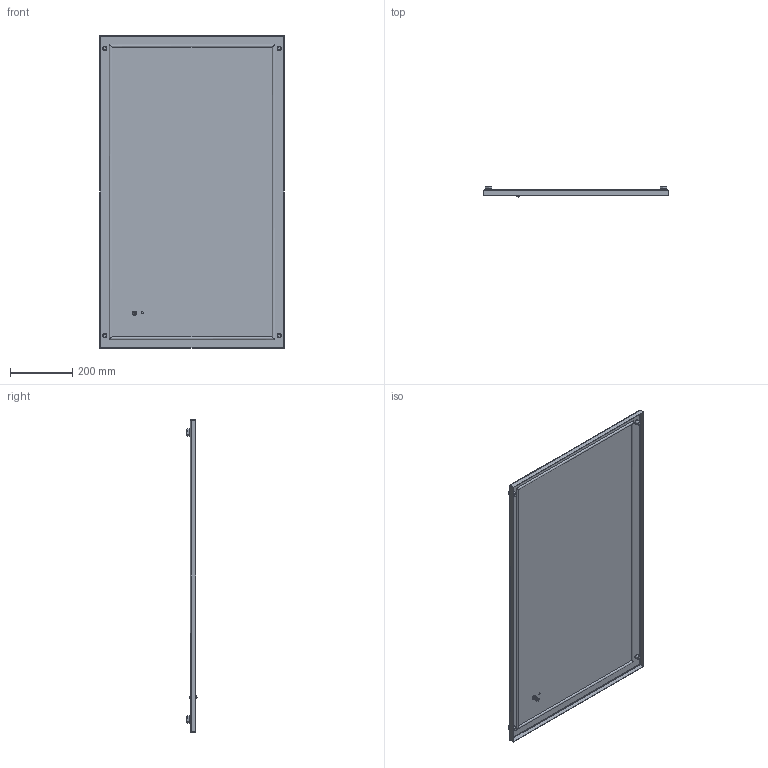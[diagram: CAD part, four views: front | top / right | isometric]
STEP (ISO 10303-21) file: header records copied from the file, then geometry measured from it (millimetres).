
FILE_DESCRIPTION (( 'STEP AP203' ), '1' );
FILE_NAME ('pt610g.STEP', '2013-10-16T11:44:40', ( '' ), ( '' ), 'SwSTEP 2.0', 'SolidWorks 2010', '' );
FILE_SCHEMA (( 'CONFIG_CONTROL_DESIGN' ));
Length unit declared in the file: inch
Products named in the file (9): 89056800_FIP GASKET; 11158884_FLEXIBLE; 87789842_89047930; pt610g; 21158174_BOLT, M12 x 1.75 x 16; 60100041_60100041; 87931368_SLEEVE; 87931527_87931527; 89056799_89056799
Assembly tree (11 placements, depth 4):
  pt610g
    11158884_FLEXIBLE
      21158174_BOLT, M12 x 1.75 x 16  x4
    87789842_89047930
      89056800_FIP GASKET
      89056799_89056799
      60100041_60100041
        87931527_87931527
        87931368_SLEEVE
Bounding box: 591.79 x 32.68 x 998.8 mm (x, y, z)
Volume: 1008758.9 mm3; surface area: 1359888.4 mm2
Topology: 8 solids, 8 shells, 237 faces, 516 edges, 304 vertices
Faces by surface type: plane 135, cylinder 56, cone 38, bspline 8
Entity records: 5707 total; most frequent: CARTESIAN_POINT 1241, DIRECTION 716, ORIENTED_EDGE 688, EDGE_CURVE 344, AXIS2_PLACEMENT_3D 251, LINE 214, VECTOR 214, VERTEX_POINT 208
